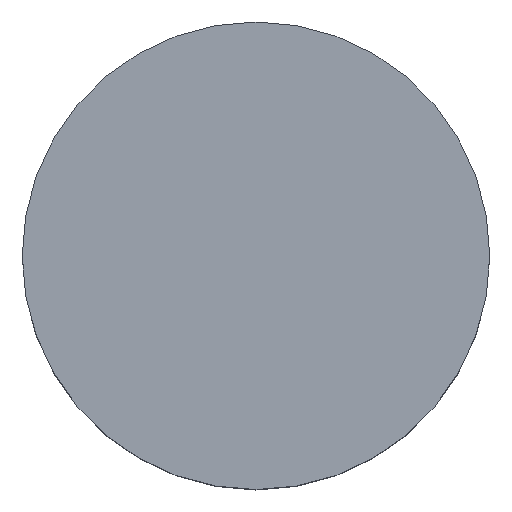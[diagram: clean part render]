
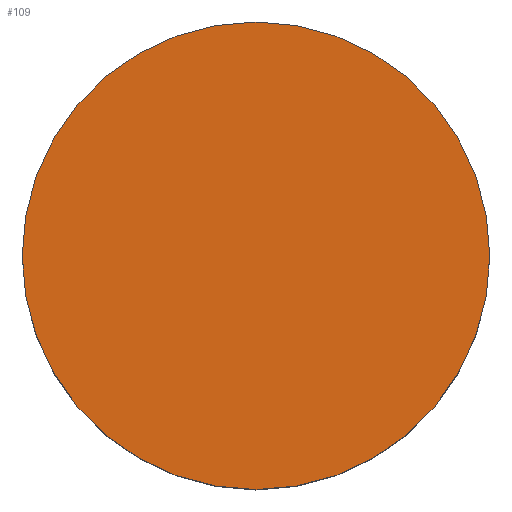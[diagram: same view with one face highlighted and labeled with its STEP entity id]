
A CAD part, top view. The second image highlights one B-rep face of the part: STEP entity #109.
In plain terms, the highlighted planar face has unit normal (0, 0, 1).
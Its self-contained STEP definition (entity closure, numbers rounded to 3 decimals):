
#24 = VERTEX_POINT('',#25);
#25 = CARTESIAN_POINT('',(-40.,-40.,28.));
#32 = CYLINDRICAL_SURFACE('',#33,2.);
#33 = AXIS2_PLACEMENT_3D('',#34,#35,#36);
#34 = CARTESIAN_POINT('',(-42.,-40.,26.));
#35 = DIRECTION('',(-0.,-0.,-1.));
#36 = DIRECTION('',(1.,0.,0.));
#51 = EDGE_CURVE('',#24,#24,#52,.T.);
#52 = SURFACE_CURVE('',#53,(#58,#65),.PCURVE_S1.);
#53 = CIRCLE('',#54,2.);
#54 = AXIS2_PLACEMENT_3D('',#55,#56,#57);
#55 = CARTESIAN_POINT('',(-42.,-40.,28.));
#56 = DIRECTION('',(0.,0.,1.));
#57 = DIRECTION('',(1.,0.,0.));
#58 = PCURVE('',#32,#59);
#59 = DEFINITIONAL_REPRESENTATION('',(#60),#64);
#60 = LINE('',#61,#62);
#61 = CARTESIAN_POINT('',(-0.,-2.));
#62 = VECTOR('',#63,1.);
#63 = DIRECTION('',(-1.,0.));
#64 = ( GEOMETRIC_REPRESENTATION_CONTEXT(2) 
PARAMETRIC_REPRESENTATION_CONTEXT() REPRESENTATION_CONTEXT('2D SPACE',''
  ) );
#65 = PCURVE('',#66,#71);
#66 = PLANE('',#67);
#67 = AXIS2_PLACEMENT_3D('',#68,#69,#70);
#68 = CARTESIAN_POINT('',(-42.,-40.,28.));
#69 = DIRECTION('',(0.,0.,1.));
#70 = DIRECTION('',(1.,0.,-0.));
#71 = DEFINITIONAL_REPRESENTATION('',(#72),#76);
#72 = CIRCLE('',#73,2.);
#73 = AXIS2_PLACEMENT_2D('',#74,#75);
#74 = CARTESIAN_POINT('',(0.,0.));
#75 = DIRECTION('',(1.,0.));
#76 = ( GEOMETRIC_REPRESENTATION_CONTEXT(2) 
PARAMETRIC_REPRESENTATION_CONTEXT() REPRESENTATION_CONTEXT('2D SPACE',''
  ) );
#109 = ADVANCED_FACE('',(#110),#66,.T.);
#110 = FACE_BOUND('',#111,.T.);
#111 = EDGE_LOOP('',(#112));
#112 = ORIENTED_EDGE('',*,*,#51,.T.);
